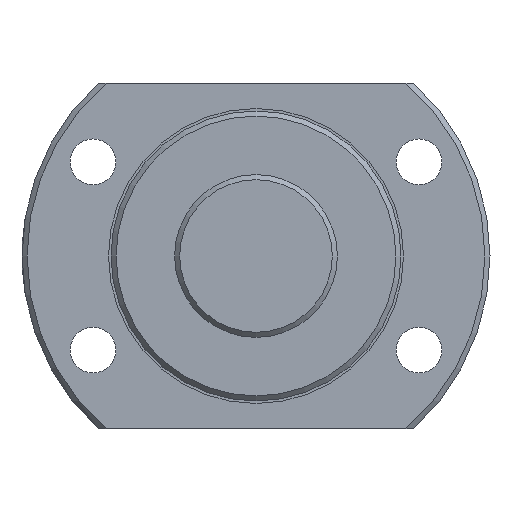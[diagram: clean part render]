
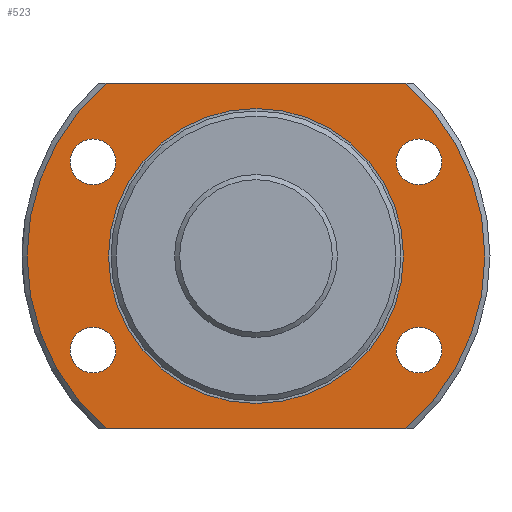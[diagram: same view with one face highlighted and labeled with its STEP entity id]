
A CAD part, left-side view. The second image highlights one B-rep face of the part: STEP entity #523.
In plain terms, the highlighted planar face has unit normal (-1, 0, 0).
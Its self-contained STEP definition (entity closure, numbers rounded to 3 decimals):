
#34=LINE('',#955,#42);
#35=LINE('',#956,#43);
#42=VECTOR('',#762,1000.);
#43=VECTOR('',#763,1000.);
#149=ORIENTED_EDGE('',*,*,#239,.T.);
#150=ORIENTED_EDGE('',*,*,#240,.F.);
#151=ORIENTED_EDGE('',*,*,#211,.F.);
#152=ORIENTED_EDGE('',*,*,#241,.F.);
#153=ORIENTED_EDGE('',*,*,#237,.F.);
#154=ORIENTED_EDGE('',*,*,#242,.T.);
#155=ORIENTED_EDGE('',*,*,#243,.T.);
#156=ORIENTED_EDGE('',*,*,#244,.T.);
#157=ORIENTED_EDGE('',*,*,#245,.T.);
#211=EDGE_CURVE('',#267,#265,#309,.T.);
#237=EDGE_CURVE('',#287,#288,#328,.T.);
#239=EDGE_CURVE('',#289,#289,#329,.T.);
#240=EDGE_CURVE('',#265,#287,#34,.T.);
#241=EDGE_CURVE('',#288,#267,#35,.T.);
#242=EDGE_CURVE('',#290,#290,#330,.T.);
#243=EDGE_CURVE('',#291,#291,#331,.T.);
#244=EDGE_CURVE('',#292,#292,#332,.T.);
#245=EDGE_CURVE('',#293,#293,#333,.T.);
#265=VERTEX_POINT('',#867);
#267=VERTEX_POINT('',#874);
#287=VERTEX_POINT('',#945);
#288=VERTEX_POINT('',#947);
#289=VERTEX_POINT('',#954);
#290=VERTEX_POINT('',#958);
#291=VERTEX_POINT('',#960);
#292=VERTEX_POINT('',#962);
#293=VERTEX_POINT('',#964);
#309=CIRCLE('',#581,45.);
#328=CIRCLE('',#616,45.);
#329=CIRCLE('',#618,29.);
#330=CIRCLE('',#619,4.5);
#331=CIRCLE('',#620,4.5);
#332=CIRCLE('',#621,4.5);
#333=CIRCLE('',#622,4.5);
#384=EDGE_LOOP('',(#149));
#385=EDGE_LOOP('',(#150,#151,#152,#153));
#386=EDGE_LOOP('',(#154));
#387=EDGE_LOOP('',(#155));
#388=EDGE_LOOP('',(#156));
#389=EDGE_LOOP('',(#157));
#458=FACE_BOUND('',#384,.T.);
#459=FACE_BOUND('',#385,.T.);
#460=FACE_BOUND('',#386,.T.);
#461=FACE_BOUND('',#387,.T.);
#462=FACE_BOUND('',#388,.T.);
#463=FACE_BOUND('',#389,.T.);
#495=PLANE('',#617);
#523=ADVANCED_FACE('',(#458,#459,#460,#461,#462,#463),#495,.T.);
#581=AXIS2_PLACEMENT_3D('',#875,#682,#683);
#616=AXIS2_PLACEMENT_3D('',#946,#756,#757);
#617=AXIS2_PLACEMENT_3D('',#952,#758,#759);
#618=AXIS2_PLACEMENT_3D('',#953,#760,#761);
#619=AXIS2_PLACEMENT_3D('',#957,#764,#765);
#620=AXIS2_PLACEMENT_3D('',#959,#766,#767);
#621=AXIS2_PLACEMENT_3D('',#961,#768,#769);
#622=AXIS2_PLACEMENT_3D('',#963,#770,#771);
#682=DIRECTION('',(1.,0.,0.));
#683=DIRECTION('',(0.,0.,-1.));
#756=DIRECTION('',(1.,0.,0.));
#757=DIRECTION('',(0.,0.,-1.));
#758=DIRECTION('',(-1.,0.,0.));
#759=DIRECTION('',(0.,0.,1.));
#760=DIRECTION('',(1.,0.,0.));
#761=DIRECTION('',(0.,0.,-1.));
#762=DIRECTION('',(0.,1.,0.));
#763=DIRECTION('',(0.,-1.,0.));
#764=DIRECTION('',(1.,0.,0.));
#765=DIRECTION('',(0.,0.,-1.));
#766=DIRECTION('',(1.,0.,0.));
#767=DIRECTION('',(0.,0.,-1.));
#768=DIRECTION('',(1.,0.,0.));
#769=DIRECTION('',(0.,0.,-1.));
#770=DIRECTION('',(1.,0.,0.));
#771=DIRECTION('',(0.,0.,-1.));
#867=CARTESIAN_POINT('',(9.,-29.479,-34.));
#874=CARTESIAN_POINT('',(9.,-29.479,34.));
#875=CARTESIAN_POINT('',(9.,0.,0.));
#945=CARTESIAN_POINT('',(9.,29.479,-34.));
#946=CARTESIAN_POINT('',(9.,0.,0.));
#947=CARTESIAN_POINT('',(9.,29.479,34.));
#952=CARTESIAN_POINT('',(9.,45.,0.));
#953=CARTESIAN_POINT('',(9.,0.,0.));
#954=CARTESIAN_POINT('',(9.,0.,-29.));
#955=CARTESIAN_POINT('',(9.,45.,-34.));
#956=CARTESIAN_POINT('',(9.,45.,34.));
#957=CARTESIAN_POINT('',(9.,-32.043,18.5));
#958=CARTESIAN_POINT('',(9.,-32.043,14.));
#959=CARTESIAN_POINT('',(9.,-32.043,-18.5));
#960=CARTESIAN_POINT('',(9.,-32.043,-23.));
#961=CARTESIAN_POINT('',(9.,32.043,-18.5));
#962=CARTESIAN_POINT('',(9.,32.043,-23.));
#963=CARTESIAN_POINT('',(9.,32.043,18.5));
#964=CARTESIAN_POINT('',(9.,32.043,14.));
